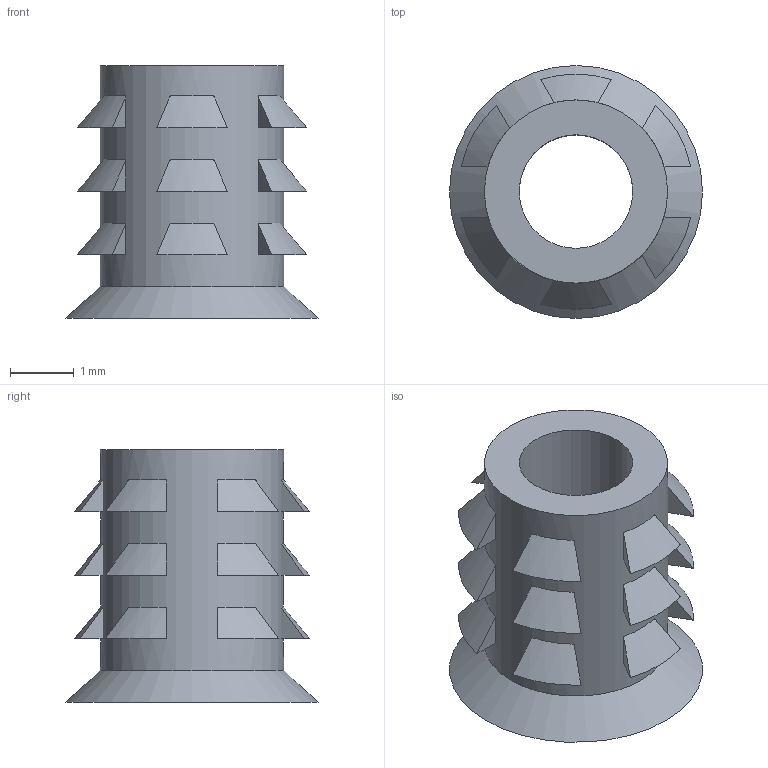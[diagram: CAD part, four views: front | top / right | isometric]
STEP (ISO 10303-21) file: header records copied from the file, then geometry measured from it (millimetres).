
FILE_DESCRIPTION (( 'STEP AP214' ), '1' );
FILE_NAME ('insert 2-56.STEP', '2017-08-09T08:58:02', ( '微软用户' ), ( '微软中国' ), 'SwSTEP 2.0', 'SolidWorks 2015', '' );
FILE_SCHEMA (( 'AUTOMOTIVE_DESIGN' ));
Length unit declared in the file: millimetre
Products named in the file (1): insert 2-56
Bounding box: 3.96 x 3.96 x 3.96 mm (x, y, z)
Volume: 18.7 mm3; surface area: 89.5 mm2
Topology: 1 solids, 1 shells, 78 faces, 172 edges, 114 vertices
Faces by surface type: plane 56, torus 19, cylinder 2, cone 1
Full cylindrical faces by diameter (mm): 1.778 x1, 2.87 x1
Entity records: 2238 total; most frequent: CARTESIAN_POINT 493, DIRECTION 350, ORIENTED_EDGE 336, EDGE_CURVE 168, AXIS2_PLACEMENT_3D 139, VERTEX_POINT 114, EDGE_LOOP 102, FACE_OUTER_BOUND 81
